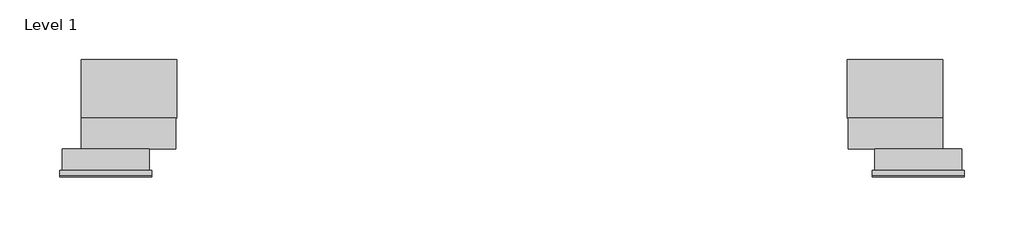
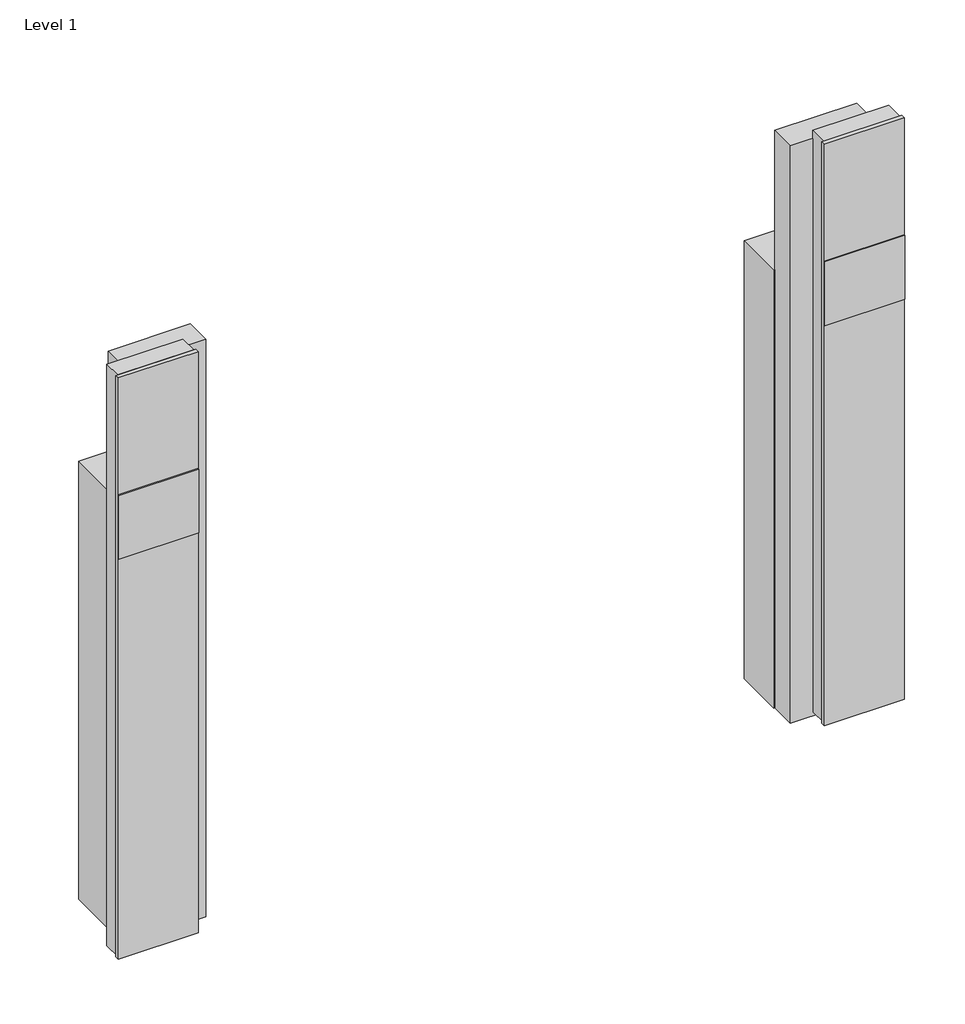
# One storey: 1 proxy.
"""IFC4 building model written with IfcOpenShell, lengths in millimetres."""

import ifcopenshell
import ifcopenshell.guid

model = None  # the IFC model being written
_history = None  # IfcOwnerHistory: only IFC2X3 demands one
_inside = {}  # id of a spatial element -> (the spatial element, [elements in it])
_under = {}  # id of a project, library or spatial element -> (it, [spatial elements below it])
_declared = {}  # id of a project -> (the project, [libraries it declares])
_typed = {}  # id of a type object -> (the type object, [elements of that type])
_made_of = {}  # id of a material, layer set ... -> (it, [elements and type objects made of it])


def new_model(schema):
    """Start an empty IFC model of exactly this schema.

    Asked for "IFC4X3", IfcOpenShell would pick the latest addendum, in which some entities
    have other attributes; the version numbers below select the first issue.
    IFC2X3 requires an IfcOwnerHistory on every rooted entity: one is made here for all.
    """
    global model, _history
    if schema == "IFC4X3":
        model = ifcopenshell.file(schema_version=(4, 3, 0, 0))
    else:
        model = ifcopenshell.file(schema=schema)
    _inside.clear()
    _under.clear()
    _declared.clear()
    _typed.clear()
    _made_of.clear()
    _history = None
    if model.schema == "IFC2X3":
        org = make("IfcOrganization", Name="unknown")
        user = make(
            "IfcPersonAndOrganization",
            ThePerson=make("IfcPerson", FamilyName="unknown"),
            TheOrganization=org,
        )
        app = make(
            "IfcApplication",
            ApplicationDeveloper=org,
            Version="unknown",
            ApplicationFullName="unknown",
            ApplicationIdentifier="unknown",
        )
        _history = make(
            "IfcOwnerHistory",
            OwningUser=user,
            OwningApplication=app,
            ChangeAction="ADDED",
            CreationDate=0,
        )
    return model


def make(cls, **values):
    """One entity of the class cls with the attributes given. An attribute that is None is left unset."""
    return model.create_entity(
        cls, **{name: value for name, value in values.items() if value is not None}
    )


def rooted(cls, **values):
    """An entity with a GlobalId (a new one), such as an element, a storey or a relation."""
    return make(cls, GlobalId=ifcopenshell.guid.new(), OwnerHistory=_history, **values)


def si_unit(unit_type, name, prefix=None):
    """IfcSIUnit, for example si_unit("LENGTHUNIT", "METRE", prefix="MILLI")."""
    return make("IfcSIUnit", UnitType=unit_type, Prefix=prefix, Name=name)


def assignment(units):
    """IfcUnitAssignment: the units of a project."""
    return None if units is None else make("IfcUnitAssignment", Units=units)


def point(xyz):
    """IfcCartesianPoint."""
    return None if xyz is None else make("IfcCartesianPoint", Coordinates=xyz)


def direction(xyz):
    """IfcDirection."""
    return None if xyz is None else make("IfcDirection", DirectionRatios=xyz)


def frame(location, z_axis=None, x_axis=None):
    """IfcAxis2Placement3D, a coordinate frame: its origin and axes. An axis left out is left unset."""
    return make(
        "IfcAxis2Placement3D",
        Location=point(location),
        Axis=direction(z_axis),
        RefDirection=direction(x_axis),
    )


def origin():
    """The frame at (0, 0, 0) with its axes left unset."""
    return frame((0.0, 0.0, 0.0))


def origin_with_axes():
    """The frame at (0, 0, 0) with the z axis (0, 0, 1) and the x axis (1, 0, 0) written out."""
    return frame((0.0, 0.0, 0.0), z_axis=(0.0, 0.0, 1.0), x_axis=(1.0, 0.0, 0.0))


def place(relative_to, where):
    """IfcLocalPlacement: puts the frame where relative to a parent placement (None: the world)."""
    return make(
        "IfcLocalPlacement", PlacementRelTo=relative_to, RelativePlacement=where
    )


def context(
    kind, dimensions, precision=None, world=None, true_north=None, identifier=None
):
    """IfcGeometricRepresentationContext, for example the 3D "Model" context."""
    return make(
        "IfcGeometricRepresentationContext",
        ContextIdentifier=identifier,
        ContextType=kind,
        CoordinateSpaceDimension=dimensions,
        Precision=precision,
        WorldCoordinateSystem=world,
        TrueNorth=true_north,
    )


def project(units=None, contexts=None):
    """IfcProject with its units and contexts."""
    return rooted(
        "IfcProject",
        Name="project",
        RepresentationContexts=contexts,
        UnitsInContext=assignment(units),
    )


def spatial(cls, under=None, at=None, **own):
    """A site, building, storey or space (cls), placed at a placement, below another one or the project."""
    s = rooted(cls, ObjectPlacement=at, **own)
    if under is not None:
        _under.setdefault(under.id(), (under, []))[1].append(s)
    return s


def polyline(points):
    """IfcPolyline through the points."""
    return make("IfcPolyline", Points=[point(p) for p in points])


def outline(outer, holes=None, kind="AREA"):
    """IfcArbitraryClosedProfileDef: a profile drawn as a closed curve; with holes, ...WithVoids."""
    if holes is None:
        return make("IfcArbitraryClosedProfileDef", ProfileType=kind, OuterCurve=outer)
    return make(
        "IfcArbitraryProfileDefWithVoids",
        ProfileType=kind,
        OuterCurve=outer,
        InnerCurves=holes,
    )


def extrude(swept, where, along, depth):
    """IfcExtrudedAreaSolid: the profile swept, set in the frame where, extruded along a direction by depth."""
    return make(
        "IfcExtrudedAreaSolid",
        SweptArea=swept,
        Position=where,
        ExtrudedDirection=direction(along),
        Depth=depth,
    )


def shape(context_of_items, identifier, shape_type, items):
    """IfcShapeRepresentation: the items that make up one representation, for example the "Body"."""
    return make(
        "IfcShapeRepresentation",
        ContextOfItems=context_of_items,
        RepresentationIdentifier=identifier,
        RepresentationType=shape_type,
        Items=items,
    )


def source(mapping_origin, context_of_items, identifier, shape_type, items):
    """IfcRepresentationMap: a shape defined once, which mapped items show again and again."""
    return make(
        "IfcRepresentationMap",
        MappingOrigin=mapping_origin,
        MappedRepresentation=shape(context_of_items, identifier, shape_type, items),
    )


def transform(
    local_origin,
    x_axis=None,
    y_axis=None,
    z_axis=None,
    scale=None,
    scale2=None,
    scale3=None,
    uniform=True,
):
    """IfcCartesianTransformationOperator3D, or its non-uniform kind. x_axis, y_axis, z_axis: its Axis1, 2, 3."""
    if uniform:
        return make(
            "IfcCartesianTransformationOperator3D",
            Axis1=direction(x_axis),
            Axis2=direction(y_axis),
            LocalOrigin=point(local_origin),
            Scale=scale,
            Axis3=direction(z_axis),
        )
    return make(
        "IfcCartesianTransformationOperator3DnonUniform",
        Axis1=direction(x_axis),
        Axis2=direction(y_axis),
        LocalOrigin=point(local_origin),
        Scale=scale,
        Axis3=direction(z_axis),
        Scale2=scale2,
        Scale3=scale3,
    )


def mapped(mapping_source, mapping_target):
    """IfcMappedItem: shows the shape of a source again, moved by a transform."""
    return make(
        "IfcMappedItem", MappingSource=mapping_source, MappingTarget=mapping_target
    )


def made_of(thing, what):
    """Note that an element or type object is made of a material, layer set ...; save() writes the relation."""
    if what is not None:
        _made_of.setdefault(what.id(), (what, []))[1].append(thing)
    return thing


def element(
    cls,
    number,
    at=None,
    inside=None,
    cuts=None,
    type_object=None,
    material=None,
    context=None,
    identifier="Body",
    shape_type=None,
    held_by="IfcProductDefinitionShape",
    body=None,
    shapes=None,
    **own,
):
    """One element of the class cls, such as IfcWall. Its Tag is "e" and its number.

    at: its placement. inside: the storey or other place that contains it. cuts: it is an
    opening in that element (IfcRelVoidsElement). A single representation is given by context,
    identifier, shape_type and body (its items); several are given by shapes. held_by: the class
    of the entity that holds the representations. save() writes the other relations.
    """
    e = rooted(cls, Tag="e%d" % number, ObjectPlacement=at, **own)
    if body is not None:
        shapes = [shape(context, identifier, shape_type, body)]
    if shapes is not None:
        e.Representation = make(held_by, Representations=shapes)
    if inside is not None:
        _inside.setdefault(inside.id(), (inside, []))[1].append(e)
    if cuts is not None:
        rooted(
            "IfcRelVoidsElement", RelatingBuildingElement=cuts, RelatedOpeningElement=e
        )
    if type_object is not None:
        _typed.setdefault(type_object.id(), (type_object, []))[1].append(e)
    return made_of(e, material)


def aggregate(whole, parts):
    """IfcRelAggregates: a whole, such as a stair, and the parts it consists of."""
    return rooted("IfcRelAggregates", RelatingObject=whole, RelatedObjects=parts)


def save(model, path):
    """Write the relations noted so far, then the file.

    IfcRelAggregates (storeys below a building ...), IfcRelContainedInSpatialStructure (elements
    in a storey), IfcRelDefinesByType, IfcRelAssociatesMaterial and IfcRelDeclares: one each for
    every whole, place, type object, material and project.
    """
    for whole, parts in _under.values():
        aggregate(whole, parts)
    for where, things in _inside.values():
        rooted(
            "IfcRelContainedInSpatialStructure",
            RelatedElements=things,
            RelatingStructure=where,
        )
    for kind, things in _typed.values():
        rooted("IfcRelDefinesByType", RelatedObjects=things, RelatingType=kind)
    for what, things in _made_of.values():
        rooted("IfcRelAssociatesMaterial", RelatedObjects=things, RelatingMaterial=what)
    for by, libraries in _declared.values():
        rooted("IfcRelDeclares", RelatingContext=by, RelatedDefinitions=libraries)
    model.write(path)


def specialty_equipment_bb4cf7f8(model_context):
    return source(origin(), model_context, "Body", "SweptSolid", [
        extrude(outline(polyline([(-301.5, -23.3), (-378.5, -23.3), (-378.5, -22.0), (-301.5, -22.0), (-301.5, -23.3)])), frame((0.0, 0.0, 412.0), z_axis=(0.0, 0.0, 1.0), x_axis=(1.0, 0.0, 0.0)), (0.0, 0.0, 1.0), 65.0),
        extrude(outline(polyline([(378.5, -23.3), (301.5, -23.3), (301.5, -22.0), (378.5, -22.0), (378.5, -23.3)])), frame((0.0, 0.0, 412.0), z_axis=(0.0, 0.0, 1.0), x_axis=(1.0, 0.0, 0.0)), (0.0, 0.0, 1.0), 65.0),
        extrude(outline(polyline([(-378.5, -18.0), (-301.5, -18.0), (-301.5, -22.0), (-378.5, -22.0), (-378.5, -18.0)])), frame((0.0, 0.0, 4.0), z_axis=(0.0, 0.0, 1.0), x_axis=(1.0, 0.0, 0.0)), (0.0, 0.0, 1.0), 592.0),
        extrude(outline(polyline([(301.5, -18.0), (378.5, -18.0), (378.5, -22.0), (301.5, -22.0), (301.5, -18.0)])), frame((0.0, 0.0, 4.0), z_axis=(0.0, 0.0, 1.0), x_axis=(1.0, 0.0, 0.0)), (0.0, 0.0, 1.0), 592.0),
        extrude(outline(polyline([(-376.5, 0.0), (-303.5, 0.0), (-303.5, -18.0), (-376.5, -18.0), (-376.5, 0.0)])), frame((0.0, 0.0, 4.0), z_axis=(0.0, 0.0, 1.0), x_axis=(1.0, 0.0, 0.0)), (0.0, 0.0, 1.0), 592.0),
        extrude(outline(polyline([(303.5, 0.0), (376.5, 0.0), (376.5, -18.0), (303.5, -18.0), (303.5, 0.0)])), frame((0.0, 0.0, 4.0), z_axis=(0.0, 0.0, 1.0), x_axis=(1.0, 0.0, 0.0)), (0.0, 0.0, 1.0), 592.0),
        extrude(outline(polyline([(280.5, 75.0), (360.5, 75.0), (360.5, 26.0), (280.5, 26.0), (280.5, 75.0)])), origin_with_axes(), (0.0, 0.0, 1.0), 446.0),
        extrude(outline(polyline([(-360.5, 75.0), (-280.5, 75.0), (-280.5, 26.0), (-360.5, 26.0), (-360.5, 75.0)])), origin_with_axes(), (0.0, 0.0, 1.0), 446.0),
        extrude(outline(polyline([(281.5, 26.0), (360.5, 26.0), (360.5, 0.0), (281.5, 0.0), (281.5, 26.0)])), origin_with_axes(), (0.0, 0.0, 1.0), 588.0),
        extrude(outline(polyline([(-360.5, 26.0), (-281.5, 26.0), (-281.5, 0.0), (-360.5, 0.0), (-360.5, 26.0)])), origin_with_axes(), (0.0, 0.0, 1.0), 588.0),
    ])


model = new_model("IFC4")

# Units and contexts
model_context = context("Model", 3, world=origin())
ifc_project = project(units=[si_unit("LENGTHUNIT", "METRE", prefix="MILLI")], contexts=[model_context])

# Site, building, storey
site = spatial("IfcSite", under=ifc_project)
building = spatial("IfcBuilding", under=site)
storey = spatial("IfcBuildingStorey", under=building, Name="Level 1", Elevation=0.0)

# Proxy
placement = place(None, origin())
specialty_equipment_shape = specialty_equipment_bb4cf7f8(model_context)
element("IfcBuildingElementProxy", 1, Name="11515790_USA_EBA7868_EDST-CLST : 29992965_USA_11515790_EBA7868_EDST-CLST", ObjectType="11515790_USA_EBA7868_EDST-CLST : 29992965_USA_11515790_EBA7868_EDST-CLST", at=placement, inside=storey, context=model_context, shape_type="MappedRepresentation", body=[
    mapped(specialty_equipment_shape, transform((0.0, 0.0, 0.0), x_axis=(1.0, 0.0, 0.0), y_axis=(0.0, 1.0, 0.0), z_axis=(0.0, 0.0, 1.0))),
])

save(model, "model.ifc")
